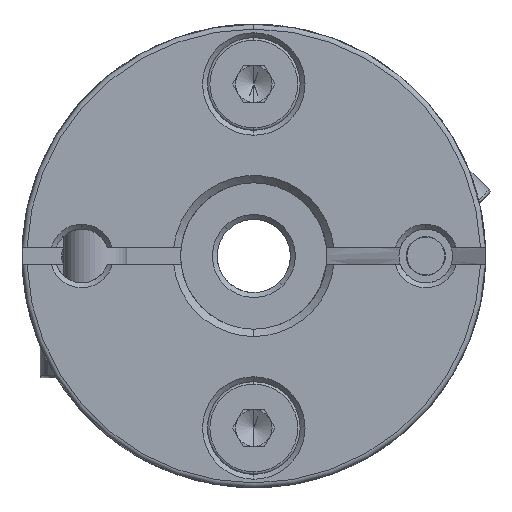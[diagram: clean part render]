
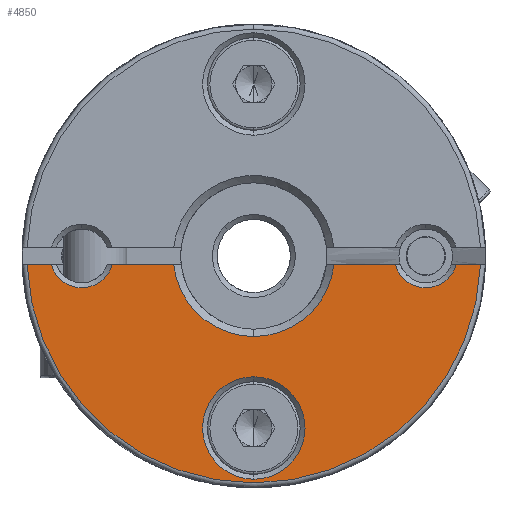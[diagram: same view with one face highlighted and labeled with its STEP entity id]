
A CAD part, front view. The second image highlights one B-rep face of the part: STEP entity #4850.
In plain terms, the highlighted planar face has unit normal (0, -1, 0).
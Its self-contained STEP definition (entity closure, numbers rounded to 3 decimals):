
#3167 = FACE_OUTER_BOUND ( 'NONE', #21512, .T. ) ;
#3170 = FACE_BOUND ( 'NONE', #21513, .T. ) ;
#4850 = ADVANCED_FACE ( 'NONE', ( #3167, #3170 ), #18716, .T. ) ;
#5027 = EDGE_CURVE ( 'NONE', #19695, #19697, #17477, .T. ) ;
#6194 = EDGE_CURVE ( 'NONE', #21026, #19831, #11533, .T. ) ;
#6195 = EDGE_CURVE ( 'NONE', #19816, #21036, #11535, .T. ) ;
#6196 = EDGE_CURVE ( 'NONE', #21036, #21032, #11541, .T. ) ;
#6197 = EDGE_CURVE ( 'NONE', #21032, #21031, #11543, .T. ) ;
#6198 = EDGE_CURVE ( 'NONE', #21031, #21016, #11547, .T. ) ;
#6199 = EDGE_CURVE ( 'NONE', #21016, #21019, #11549, .T. ) ;
#6200 = EDGE_CURVE ( 'NONE', #21019, #21025, #11553, .T. ) ;
#6201 = EDGE_CURVE ( 'NONE', #21025, #21026, #11555, .T. ) ;
#6202 = EDGE_CURVE ( 'NONE', #19697, #19695, #11559, .T. ) ;
#6922 = EDGE_CURVE ( 'NONE', #19831, #19816, #14642, .T. ) ;
#7294 = AXIS2_PLACEMENT_3D ( 'NONE', #18723, #18714, #18713 ) ;
#7466 = AXIS2_PLACEMENT_3D ( 'NONE', #18148, #18147, #18146 ) ;
#9071 = AXIS2_PLACEMENT_3D ( 'NONE', #12934, #12935, #12936 ) ;
#9072 = AXIS2_PLACEMENT_3D ( 'NONE', #12941, #12942, #12943 ) ;
#9073 = AXIS2_PLACEMENT_3D ( 'NONE', #12944, #12945, #12946 ) ;
#9074 = AXIS2_PLACEMENT_3D ( 'NONE', #12949, #12950, #12951 ) ;
#9075 = AXIS2_PLACEMENT_3D ( 'NONE', #12954, #12955, #12956 ) ;
#9447 = AXIS2_PLACEMENT_3D ( 'NONE', #15565, #15566, #15567 ) ;
#10729 = ORIENTED_EDGE ( 'NONE', *, *, #6196, .T. ) ;
#11176 = ORIENTED_EDGE ( 'NONE', *, *, #6197, .T. ) ;
#11208 = ORIENTED_EDGE ( 'NONE', *, *, #6194, .T. ) ;
#11210 = ORIENTED_EDGE ( 'NONE', *, *, #6200, .T. ) ;
#11220 = ORIENTED_EDGE ( 'NONE', *, *, #6201, .T. ) ;
#11240 = ORIENTED_EDGE ( 'NONE', *, *, #6198, .T. ) ;
#11242 = ORIENTED_EDGE ( 'NONE', *, *, #6202, .T. ) ;
#11246 = ORIENTED_EDGE ( 'NONE', *, *, #5027, .T. ) ;
#11274 = ORIENTED_EDGE ( 'NONE', *, *, #6195, .T. ) ;
#11278 = ORIENTED_EDGE ( 'NONE', *, *, #6199, .T. ) ;
#11302 = ORIENTED_EDGE ( 'NONE', *, *, #6922, .T. ) ;
#11533 = LINE ( 'NONE', #12927, #11539 ) ;
#11535 = CIRCLE ( 'NONE', #9071, 3.3 ) ;
#11539 = VECTOR ( 'NONE', #12916, 1000. ) ;
#11541 = LINE ( 'NONE', #12931, #11545 ) ;
#11543 = CIRCLE ( 'NONE', #9072, 1.3 ) ;
#11545 = VECTOR ( 'NONE', #12920, 1000. ) ;
#11547 = LINE ( 'NONE', #12932, #11551 ) ;
#11549 = CIRCLE ( 'NONE', #9073, 9.3 ) ;
#11551 = VECTOR ( 'NONE', #12933, 1000. ) ;
#11553 = LINE ( 'NONE', #12939, #11557 ) ;
#11555 = CIRCLE ( 'NONE', #9074, 1.3 ) ;
#11557 = VECTOR ( 'NONE', #12940, 1000. ) ;
#11559 = CIRCLE ( 'NONE', #9075, 2.1 ) ;
#12916 = DIRECTION ( 'NONE',  ( -1., 0., 0. ) ) ;
#12920 = DIRECTION ( 'NONE',  ( -1., 0., 0. ) ) ;
#12927 = CARTESIAN_POINT ( 'NONE',  ( 0., -10.55, -0.35 ) ) ;
#12931 = CARTESIAN_POINT ( 'NONE',  ( 0., -10.55, -0.35 ) ) ;
#12932 = CARTESIAN_POINT ( 'NONE',  ( 0., -10.55, -0.35 ) ) ;
#12933 = DIRECTION ( 'NONE',  ( -1., 0., 0. ) ) ;
#12934 = CARTESIAN_POINT ( 'NONE',  ( 0., -10.55, 0. ) ) ;
#12935 = DIRECTION ( 'NONE',  ( 0., 1., 0. ) ) ;
#12936 = DIRECTION ( 'NONE',  ( 0., 0., -1. ) ) ;
#12939 = CARTESIAN_POINT ( 'NONE',  ( 0., -10.55, -0.35 ) ) ;
#12940 = DIRECTION ( 'NONE',  ( -1., 0., 0. ) ) ;
#12941 = CARTESIAN_POINT ( 'NONE',  ( -7.05, -10.55, 0. ) ) ;
#12942 = DIRECTION ( 'NONE',  ( 0., 1., 0. ) ) ;
#12943 = DIRECTION ( 'NONE',  ( 0., 0., 1. ) ) ;
#12944 = CARTESIAN_POINT ( 'NONE',  ( 0., -10.55, 0. ) ) ;
#12945 = DIRECTION ( 'NONE',  ( 0., -1., 0. ) ) ;
#12946 = DIRECTION ( 'NONE',  ( 0., 0., 1. ) ) ;
#12949 = CARTESIAN_POINT ( 'NONE',  ( 7.05, -10.55, 0. ) ) ;
#12950 = DIRECTION ( 'NONE',  ( 0., 1., 0. ) ) ;
#12951 = DIRECTION ( 'NONE',  ( 0., 0., 1. ) ) ;
#12954 = CARTESIAN_POINT ( 'NONE',  ( 0., -10.55, -7.05 ) ) ;
#12955 = DIRECTION ( 'NONE',  ( 0., 1., 0. ) ) ;
#12956 = DIRECTION ( 'NONE',  ( 0., 0., 1. ) ) ;
#14642 = CIRCLE ( 'NONE', #9447, 3.3 ) ;
#15565 = CARTESIAN_POINT ( 'NONE',  ( 0., -10.55, 0. ) ) ;
#15566 = DIRECTION ( 'NONE',  ( 0., 1., 0. ) ) ;
#15567 = DIRECTION ( 'NONE',  ( 0., 0., -1. ) ) ;
#16895 = CARTESIAN_POINT ( 'NONE',  ( 0., -10.55, -4.95 ) ) ;
#16897 = CARTESIAN_POINT ( 'NONE',  ( 0., -10.55, -9.15 ) ) ;
#17015 = CARTESIAN_POINT ( 'NONE',  ( 0., -10.55, -3.3 ) ) ;
#17030 = CARTESIAN_POINT ( 'NONE',  ( 3.281, -10.55, -0.35 ) ) ;
#17132 = CARTESIAN_POINT ( 'NONE',  ( -9.293, -10.55, -0.35 ) ) ;
#17135 = CARTESIAN_POINT ( 'NONE',  ( 9.293, -10.55, -0.35 ) ) ;
#17141 = CARTESIAN_POINT ( 'NONE',  ( 8.302, -10.55, -0.35 ) ) ;
#17142 = CARTESIAN_POINT ( 'NONE',  ( 5.798, -10.55, -0.35 ) ) ;
#17147 = CARTESIAN_POINT ( 'NONE',  ( -8.302, -10.55, -0.35 ) ) ;
#17148 = CARTESIAN_POINT ( 'NONE',  ( -5.798, -10.55, -0.35 ) ) ;
#17152 = CARTESIAN_POINT ( 'NONE',  ( -3.281, -10.55, -0.35 ) ) ;
#17477 = CIRCLE ( 'NONE', #7466, 2.1 ) ;
#18146 = DIRECTION ( 'NONE',  ( 0., 0., 1. ) ) ;
#18147 = DIRECTION ( 'NONE',  ( 0., 1., 0. ) ) ;
#18148 = CARTESIAN_POINT ( 'NONE',  ( 0., -10.55, -7.05 ) ) ;
#18713 = DIRECTION ( 'NONE',  ( 0., 0., 1. ) ) ;
#18714 = DIRECTION ( 'NONE',  ( 0., -1., 0. ) ) ;
#18716 = PLANE ( 'NONE',  #7294 ) ;
#18723 = CARTESIAN_POINT ( 'NONE',  ( 0., -10.55, 0. ) ) ;
#19695 = VERTEX_POINT ( 'NONE', #16895 ) ;
#19697 = VERTEX_POINT ( 'NONE', #16897 ) ;
#19816 = VERTEX_POINT ( 'NONE', #17015 ) ;
#19831 = VERTEX_POINT ( 'NONE', #17030 ) ;
#21016 = VERTEX_POINT ( 'NONE', #17132 ) ;
#21019 = VERTEX_POINT ( 'NONE', #17135 ) ;
#21025 = VERTEX_POINT ( 'NONE', #17141 ) ;
#21026 = VERTEX_POINT ( 'NONE', #17142 ) ;
#21031 = VERTEX_POINT ( 'NONE', #17147 ) ;
#21032 = VERTEX_POINT ( 'NONE', #17148 ) ;
#21036 = VERTEX_POINT ( 'NONE', #17152 ) ;
#21512 = EDGE_LOOP ( 'NONE', ( #11208, #11302, #11274, #10729, #11176, #11240, #11278, #11210, #11220 ) ) ;
#21513 = EDGE_LOOP ( 'NONE', ( #11246, #11242 ) ) ;
